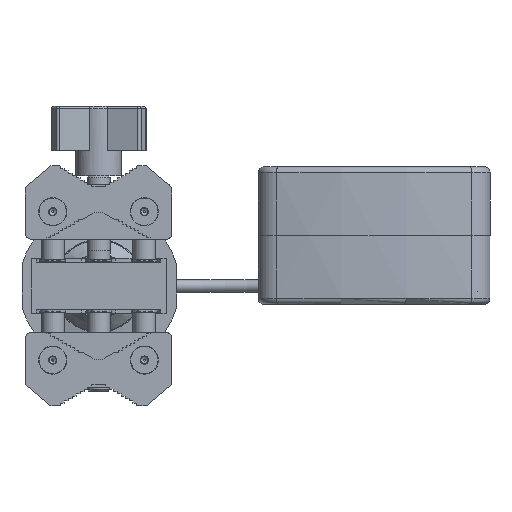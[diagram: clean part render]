
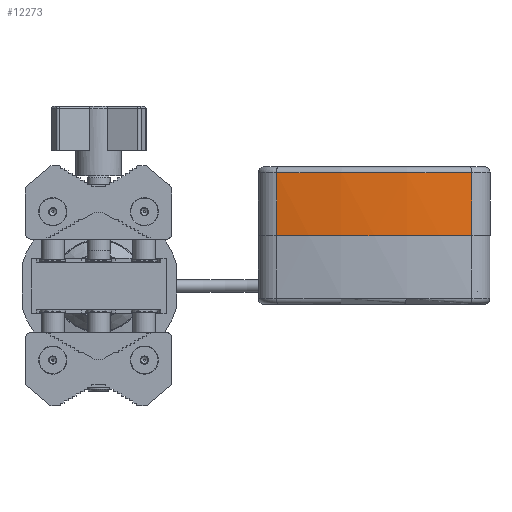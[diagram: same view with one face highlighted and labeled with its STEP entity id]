
A CAD part, front view. The second image highlights one B-rep face of the part: STEP entity #12273.
In plain terms, the highlighted cylindrical face has radius 139.7 mm (diameter 279.4 mm), a partial arc.
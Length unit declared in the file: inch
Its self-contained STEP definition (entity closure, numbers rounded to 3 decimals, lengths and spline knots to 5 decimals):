
#11111=CARTESIAN_POINT('',(120.80015,64.4945,-86.6313));
#11112=VERTEX_POINT('',#11111);
#11223=CARTESIAN_POINT('',(119.73707,64.59827,-86.6313));
#11224=VERTEX_POINT('',#11223);
#11225=CARTESIAN_POINT('',(120.8004,69.9945,-86.6313));
#11226=DIRECTION('',(0.0,0.0,-1.0));
#11227=DIRECTION('',(-1.0,0.0,0.0));
#11228=AXIS2_PLACEMENT_3D('',#11225,#11226,#11227);
#11229=CIRCLE('',#11228,5.5);
#11230=EDGE_CURVE('',#11112,#11224,#11229,.T.);
#11716=CARTESIAN_POINT('',(121.86374,64.59827,-86.6313));
#11717=VERTEX_POINT('',#11716);
#11725=CARTESIAN_POINT('',(120.8004,69.9945,-86.6313));
#11726=DIRECTION('',(0.0,0.0,-1.0));
#11727=DIRECTION('',(-1.0,0.0,0.0));
#11728=AXIS2_PLACEMENT_3D('',#11725,#11726,#11727);
#11729=CIRCLE('',#11728,5.5);
#11730=EDGE_CURVE('',#11717,#11112,#11729,.T.);
#12241=CARTESIAN_POINT('',(120.8004,69.9945,-86.6313));
#12242=DIRECTION('',(0.,0.,1.0));
#12243=DIRECTION('',(-1.0,0.0,0.0));
#12244=AXIS2_PLACEMENT_3D('',#12241,#12242,#12243);
#12245=CYLINDRICAL_SURFACE('',#12244,5.5);
#12246=CARTESIAN_POINT('',(119.73707,64.59827,-85.9443));
#12247=VERTEX_POINT('',#12246);
#12248=CARTESIAN_POINT('',(121.86374,64.59827,-85.9443));
#12249=VERTEX_POINT('',#12248);
#12250=CARTESIAN_POINT('',(120.8004,69.9945,-85.9443));
#12251=DIRECTION('',(0.0,0.0,1.0));
#12252=DIRECTION('',(0.0,-1.0,0.0));
#12253=AXIS2_PLACEMENT_3D('',#12250,#12251,#12252);
#12254=CIRCLE('',#12253,5.5);
#12255=EDGE_CURVE('',#12247,#12249,#12254,.T.);
#12256=ORIENTED_EDGE('',*,*,#12255,.F.);
#12257=CARTESIAN_POINT('',(119.73707,64.59827,-86.6313));
#12258=DIRECTION('',(0.0,0.0,1.0));
#12259=VECTOR('',#12258,0.687);
#12260=LINE('',#12257,#12259);
#12261=EDGE_CURVE('',#11224,#12247,#12260,.T.);
#12262=ORIENTED_EDGE('',*,*,#12261,.F.);
#12263=ORIENTED_EDGE('',*,*,#11230,.F.);
#12264=ORIENTED_EDGE('',*,*,#11730,.F.);
#12265=CARTESIAN_POINT('',(121.86374,64.59827,-86.6313));
#12266=DIRECTION('',(0.0,0.0,1.0));
#12267=VECTOR('',#12266,0.687);
#12268=LINE('',#12265,#12267);
#12269=EDGE_CURVE('',#11717,#12249,#12268,.T.);
#12270=ORIENTED_EDGE('',*,*,#12269,.T.);
#12271=EDGE_LOOP('',(#12256,#12262,#12263,#12264,#12270));
#12272=FACE_OUTER_BOUND('',#12271,.T.);
#12273=ADVANCED_FACE('',(#12272),#12245,.T.);
